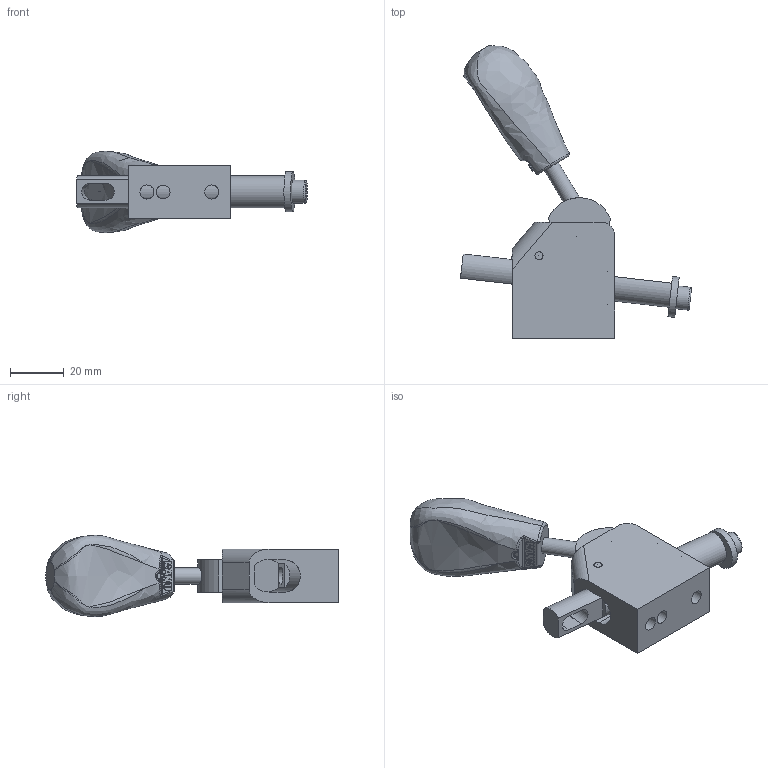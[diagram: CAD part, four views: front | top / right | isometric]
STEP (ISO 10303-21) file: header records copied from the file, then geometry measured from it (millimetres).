
FILE_DESCRIPTION(/* description */ (''),/* implementation_level */ '2;1');
FILE_NAME(/* name */ '\\192.168.1.150\pc03\Inventor\デュアルメカニズムクランプ最終\2017.10月　最新型\SUD-20ST\SUD-20ST-UNCLAMP.stp',/* time_stamp */ '2024-05-14T16:50:55+09:00',/* author */ ('Backup'),/* organization */ (''),/* preprocessor_version */ 'ST-DEVELOPER v17',/* originating_system */ 'Autodesk Inventor 2019',/* authorisation */ '');
FILE_SCHEMA (('AUTOMOTIVE_DESIGN { 1 0 10303 214 3 1 1 }'));
Length unit declared in the file: millimetre
Products named in the file (9): SUD-20ST-CLAMP; ボディー; 50-30_VER4_PG2__12; SB止め板; Φ8×40ｼｬﾌﾄ; カム; スライドバー; AS 1420 - 1973 - M5 x 14; ピン　３×20
Assembly tree (8 placements, depth 2):
  SUD-20ST-CLAMP
    ボディー
    50-30_VER4_PG2__12
    SB止め板
    Φ8×40ｼｬﾌﾄ
    カム
    スライドバー
    AS 1420 - 1973 - M5 x 14
    ピン　３×20
Bounding box: 85.6 x 108.38 x 30.18 mm (x, y, z)
Volume: 50476.4 mm3; surface area: 21116.6 mm2
Topology: 9 solids, 9 shells, 226 faces, 615 edges, 411 vertices
Faces by surface type: plane 108, cylinder 83, bspline 24, cone 5, sphere 4, torus 2
Full cylindrical faces by diameter (mm): 0.01 x13, 0.1 x1, 1.306 x1, 3 x1, 3.2 x3, 5 x2, 5.1 x1, 5.2 x3, 6 x3, 8.5 x1, 12 x1, 15 x1
Entity records: 17682 total; most frequent: CARTESIAN_POINT 11635, ORIENTED_EDGE 1220, DIRECTION 1160, EDGE_CURVE 610, AXIS2_PLACEMENT_3D 421, VERTEX_POINT 411, LINE 318, VECTOR 318
